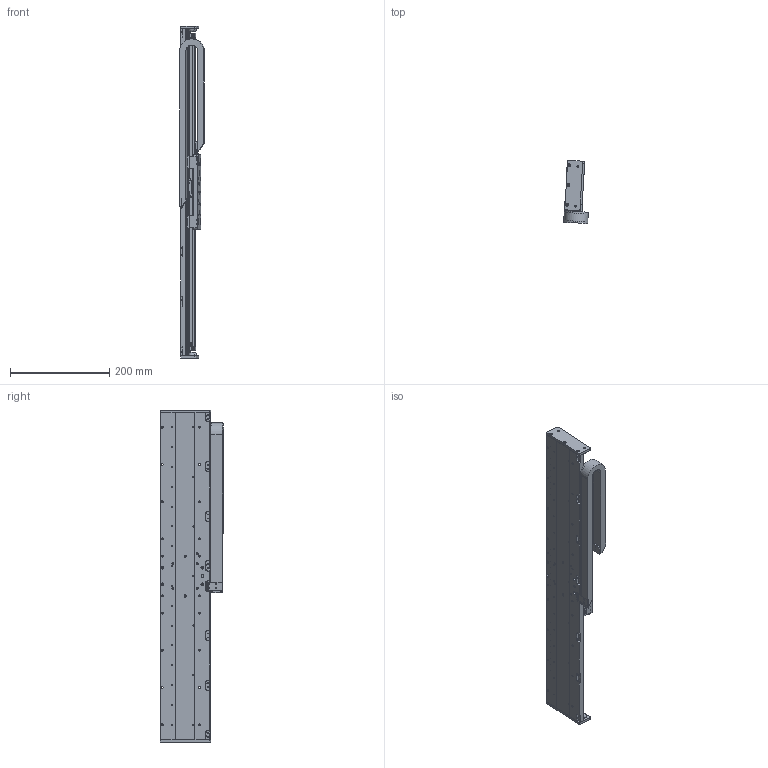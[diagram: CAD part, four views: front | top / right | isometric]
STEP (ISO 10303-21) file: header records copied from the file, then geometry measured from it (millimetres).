
FILE_DESCRIPTION(/* description */ (''),/* implementation_level */ '2;1');
FILE_NAME(/* name */ 'I:\FY15 Projects\MSR\MSR100\Web Step Models\mSR100L-500XLDXXXXXXCM13.stp',/* time_stamp */ '2015-02-18T13:27:42-05:00',/* author */ ('BF20108'),/* organization */ (''),/* preprocessor_version */ 'ST-DEVELOPER v15.2',/* originating_system */ 'Autodesk Inventor 2014',/* authorisation */ '');
FILE_SCHEMA (('AUTOMOTIVE_DESIGN { 1 0 10303 214 3 1 1 }'));
Products named in the file (18): 102-5710-12; 003-3562-44; 102-5702-11; ml18-120m-n; ml18-80m-n; 102-5703-01; 102-5705-01; 002-3740-12; 003-3561; 003-5000; 102-5708; ML18-5E; 002-3740-long-carriage-assy; mx100-mcb; mx100-scb; e045-16-018-carrier-14; 002-3740-cbl-carr-lc-07; 002-3740
Bounding box: 49.76 x 127.67 x 670 mm (x, y, z)
Volume: 1103813.8 mm3; surface area: 512955.6 mm2
Topology: 27 solids, 28 shells, 3507 faces, 9369 edges, 5988 vertices
Faces by surface type: plane 1618, cylinder 1378, torus 256, cone 243, bspline 8, sphere 4
Full cylindrical faces by diameter (mm): 0.5 x8, 1 x4, 1.567 x125, 1.588 x2, 2.007 x18, 2.013 x20, 2.135 x4, 2.4 x88, 2.459 x25, 2.5 x20, 2.642 x4, 2.75 x1, 3 x32, 3.242 x10, 3.4 x37, 3.505 x4, 4 x4, 4.17 x2, 4.2 x89, 4.5 x18, 5 x9, 5.08 x2, 6 x41, 11.176 x4
Entity records: 63177 total; most frequent: CARTESIAN_POINT 11956, DIRECTION 10668, ORIENTED_EDGE 9676, EDGE_CURVE 4822, AXIS2_PLACEMENT_3D 3881, VERTEX_POINT 3424, EDGE_LOOP 3188, LINE 2906
